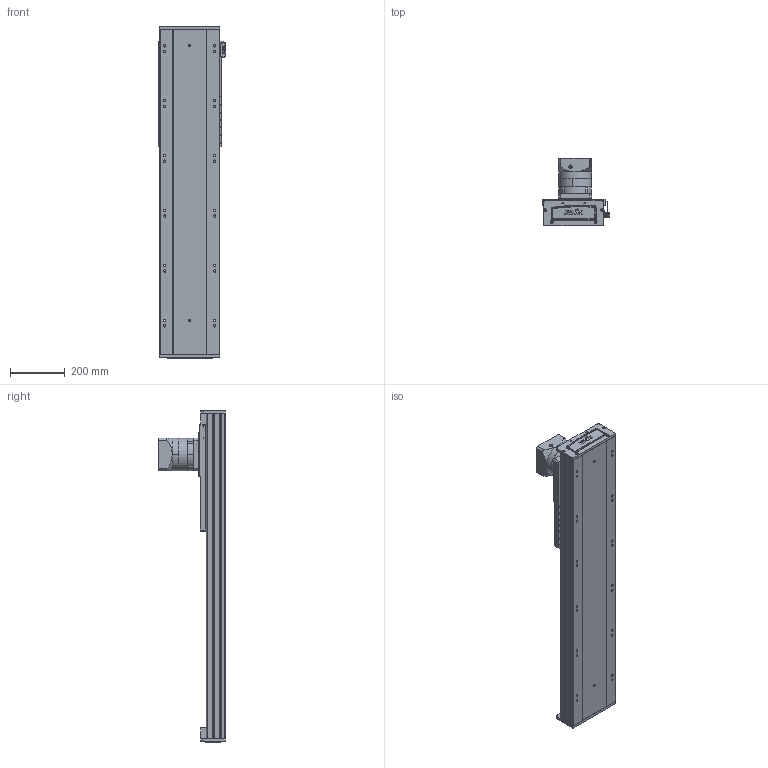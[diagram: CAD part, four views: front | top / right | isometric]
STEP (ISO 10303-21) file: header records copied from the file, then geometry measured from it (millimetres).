
FILE_DESCRIPTION (( 'STEP AP203' ), '1' );
FILE_NAME ('RY220-C-300-UK.SLDASM_0700.step', '2022-08-01T05:58:47', ( '' ), ( '' ), 'SwSTEP 2.0', 'SolidWorks 2016', '' );
FILE_SCHEMA (( 'CONFIG_CONTROL_DESIGN' ));
Length unit declared in the file: millimetre
Products named in the file (10): 滅袉蝶輸ㄗG412隅秶ㄘ; PF115L1-S2-22-58-110-145-M8; RY220-C-300-UK.SLDASM_0700; RY220-齿条模组电机安装板; RY220喘沭綴裔啣; RY220菁釱MK-300_0700; RY220喘沭俋离覜茼え; RY140直线电机感应器674光电安装座; RY220喘沭賑輸; 覜茼ん674
Assembly tree (12 placements, depth 2):
  RY220-C-300-UK.SLDASM_0700
    RY220菁釱MK-300_0700
    RY220喘沭賑輸
    RY220-齿条模组电机安装板
    PF115L1-S2-22-58-110-145-M8
    RY220喘沭綴裔啣  x2
    滅袉蝶輸ㄗG412隅秶ㄘ  x2
    RY140直线电机感应器674光电安装座
    覜茼ん674  x2
    RY220喘沭俋离覜茼え
Bounding box: 247 x 244.5 x 1209 mm (x, y, z)
Volume: 10783439.4 mm3; surface area: 2075930.9 mm2
Topology: 18 solids, 26 shells, 1886 faces, 5043 edges, 3230 vertices
Faces by surface type: cylinder 841, plane 751, bspline 162, cone 132
Entity records: 59453 total; most frequent: CARTESIAN_POINT 16452, DIRECTION 8727, ORIENTED_EDGE 8722, EDGE_CURVE 4361, AXIS2_PLACEMENT_3D 3293, VERTEX_POINT 2856, LINE 2141, VECTOR 2141
